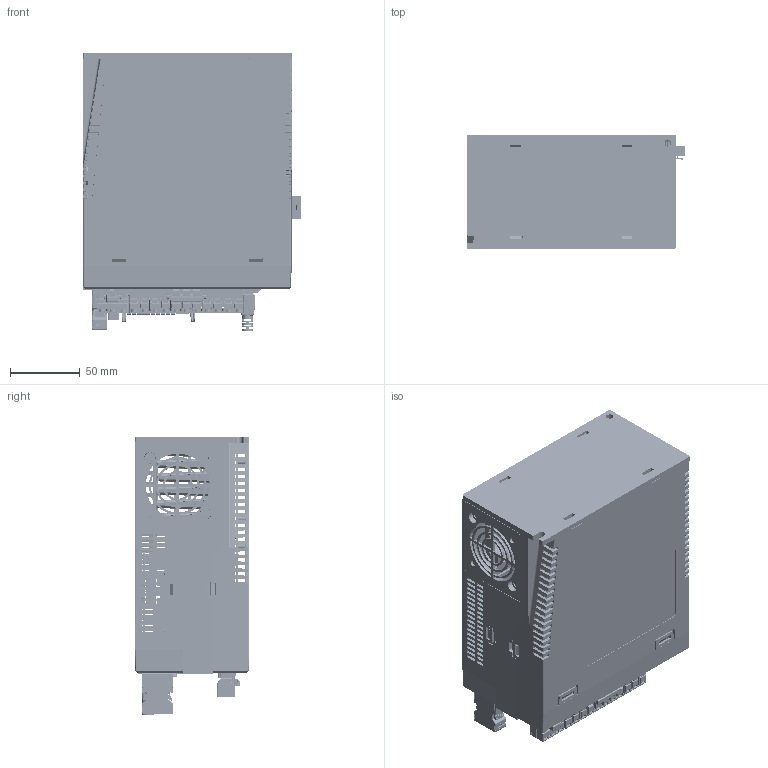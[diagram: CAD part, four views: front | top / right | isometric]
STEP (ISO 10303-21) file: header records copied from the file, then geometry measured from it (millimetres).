
FILE_DESCRIPTION((''),'2;1');
FILE_NAME('M56S-26A0ECX_ASM','2023-08-16T11:02:32',('ms27526'),(''),'CREO PARAMETRIC BY PTC INC, 2018100','CREO PARAMETRIC BY PTC INC, 2018100','');
FILE_SCHEMA(('CONFIG_CONTROL_DESIGN'));
Products named in the file (12): M56S-26A0ECX_1_1; M56S-26A0ECX_1_2; M56S-26A0ECX_1_3; M56S-26A0ECX_1_4; M56S-26A0ECX_1_5; M56S-26A0ECX_1_6; M56S-26A0ECX_1_14; M56S-26A0ECX_1_15; M56S-26A0ECX_1_16; M56S-26A0ECX_1_38; M56S-26A0ECX_1_ASM; M56S-26A0ECX_ASM
Assembly tree (11 placements, depth 3):
  M56S-26A0ECX_ASM
    M56S-26A0ECX_1_ASM
      M56S-26A0ECX_1_1
      M56S-26A0ECX_1_2
      M56S-26A0ECX_1_3
      M56S-26A0ECX_1_4
      M56S-26A0ECX_1_5
      M56S-26A0ECX_1_6
      M56S-26A0ECX_1_14
      M56S-26A0ECX_1_15
      M56S-26A0ECX_1_16
      M56S-26A0ECX_1_38
Bounding box: 156.8 x 82 x 199.63 mm (x, y, z)
Volume: 436851.7 mm3; surface area: 455300.3 mm2
Topology: 12 solids, 118 shells, 22128 faces, 61279 edges, 38786 vertices
Faces by surface type: plane 13520, cylinder 5567, cone 1460, bspline 740, torus 527, sphere 254, extrusion 60
Entity records: 759242 total; most frequent: CARTESIAN_POINT 202145, ORIENTED_EDGE 120524, DIRECTION 108418, EDGE_CURVE 60794, VECTOR 43258, LINE 43198, VERTEX_POINT 38779, AXIS2_PLACEMENT_3D 32580
